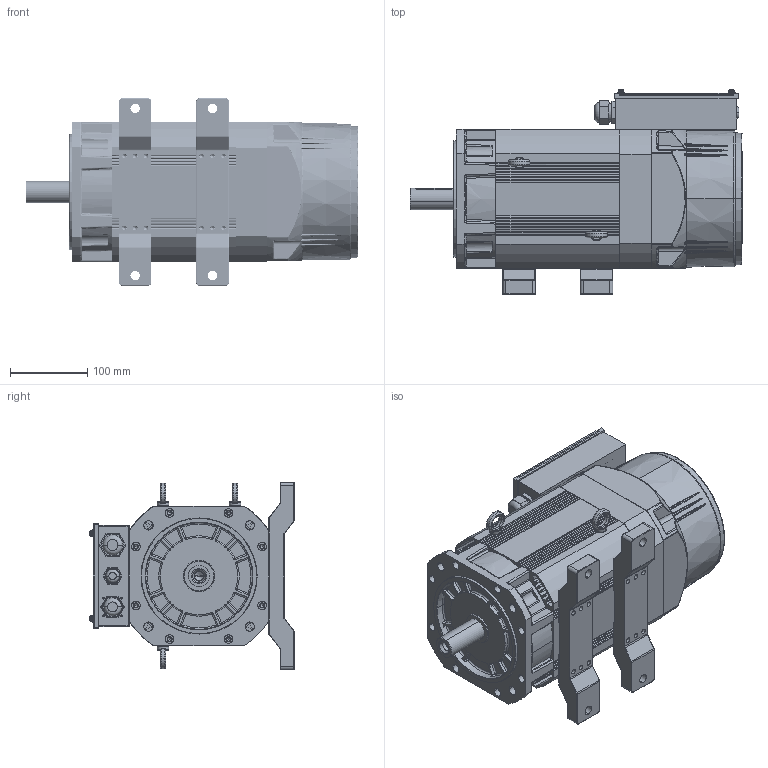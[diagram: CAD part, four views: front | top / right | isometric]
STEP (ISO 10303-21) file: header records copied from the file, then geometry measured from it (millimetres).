
FILE_DESCRIPTION (( 'STEP AP203' ), '1' );
FILE_NAME ('180M.STEP', '2021-03-19T06:28:42', ( '' ), ( '' ), 'SwSTEP 2.0', 'SolidWorks 2016', '' );
FILE_SCHEMA (( 'CONFIG_CONTROL_DESIGN' ));
Length unit declared in the file: millimetre
Products named in the file (26): 180M; 200諉盄碟窒璃; 200諉盄翐; 180芧埽ヶ傷裔; cross recessed pan head screws gb_GB_CROSS_SCREWS_TYPE1 M3X12-12  H type-N; 200 180菁褐樓詢; 180粣2.2kw; M16X1.5蹟杶; plain washers-n series-grade a gb_GB_FASTENER_WASHER_PWNA 4; cross recessed pan head screws gb_GB_CROSS_SCREWS_TYPE1 M4X5-5  H type-N; cross recessed cheese head screws gb_GB_CROSS_SCREWS_TYPE2 M4X10-10  H type-N; M20X1.5蹟杶; 200风机过线圈; 晤鎢ん啣; spring lock washers--normal type gb_GB_FASTENER_WASHER_SW 4; M24X1.5蹟杶; M8X12裂遠; 200諉盄碟裔; 180呿蹋瑞欶; 200諉盄碟裔躇猾菜; 晤鎢ん隅砱梓ワ; 晤鎢ん橈埽翐; 綴裔; UVW隅砱梓ワ; 200瑤脣ヶ堤盄諉盄碟; 180M儂褲
Assembly tree (44 placements, depth 3):
  180M
    180M儂褲
    180芧埽ヶ傷裔
    180粣2.2kw
    綴裔
    180呿蹋瑞欶
    200諉盄碟窒璃
      200瑤脣ヶ堤盄諉盄碟
      M24X1.5蹟杶
      200风机过线圈
      M20X1.5蹟杶
      M16X1.5蹟杶
      200諉盄翐
      晤鎢ん橈埽翐  x4
      晤鎢ん啣
      200諉盄碟裔躇猾菜
      200諉盄碟裔
      UVW隅砱梓ワ
      晤鎢ん隅砱梓ワ
      cross recessed cheese head screws gb_GB_CROSS_SCREWS_TYPE2 M4X10-10  H type-N  x4
      spring lock washers--normal type gb_GB_FASTENER_WASHER_SW 4  x4
      plain washers-n series-grade a gb_GB_FASTENER_WASHER_PWNA 4  x4
      cross recessed pan head screws gb_GB_CROSS_SCREWS_TYPE1 M3X12-12  H type-N  x4
      cross recessed pan head screws gb_GB_CROSS_SCREWS_TYPE1 M4X5-5  H type-N  x2
    M8X12裂遠  x3
    200 180菁褐樓詢  x2
Bounding box: 429 x 264.25 x 242 mm (x, y, z)
Volume: 3354919 mm3; surface area: 1134386.8 mm2
Topology: 43 solids, 43 shells, 3959 faces, 10002 edges, 6108 vertices
Faces by surface type: cylinder 1233, plane 918, bspline 861, cone 675, torus 200, sphere 72
Entity records: 130490 total; most frequent: CARTESIAN_POINT 46413, ORIENTED_EDGE 17538, DIRECTION 16665, EDGE_CURVE 8769, AXIS2_PLACEMENT_3D 6686, VERTEX_POINT 5406, CIRCLE 3975, EDGE_LOOP 3909
